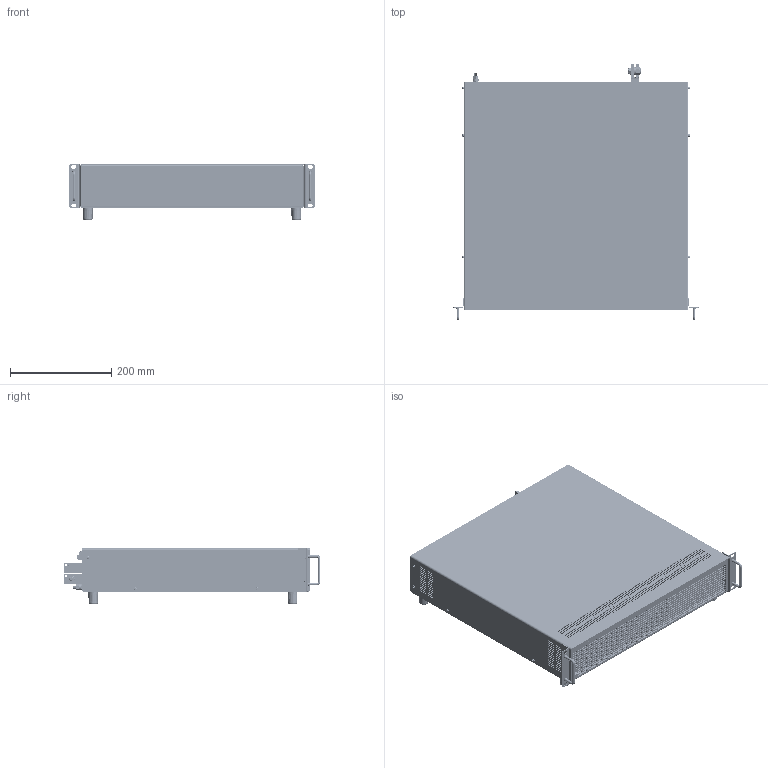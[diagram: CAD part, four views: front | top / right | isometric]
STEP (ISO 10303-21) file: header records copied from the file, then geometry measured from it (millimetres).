
FILE_DESCRIPTION(('STEP AP214'),'1');
FILE_NAME('PMLA HP_M30_19Z_2HE_FKS20_5_SM8_BRD_3D_01.step','2025-05-27T08:33:14',(' '),(' '),'Spatial InterOp 3D',' ',' ');
FILE_SCHEMA(('AUTOMOTIVE_DESIGN { 1 0 10303 214 1 1 1 1 }'));
Length unit declared in the file: millimetre
Products named in the file (23): *U470; *U471; *U472; 2614_PMLA HP Frontpanel_01 mit Einbauten; 2610_PMLA HP Rückwand_02 mit Einbauten; *U1084; *U1085; *U1086; *U1087; *U1088; *U1089; *U1090; 35951; *U1091; AutoCreatedBlock_1149; 2613_PMLA HP Bodenplatte_02; KVT BSO-M3-8; KVT BSO-M3-12; PEM_M5; AutoCreatedBlock_1169; 2133_st-05_055_22_3D; AutoCreatedBlock_1137
Assembly tree (46 placements, depth 3):
  (unnamed)
    *U470
    *U471  x4
    *U472  x2
    2614_PMLA HP Frontpanel_01 mit Einbauten
    2610_PMLA HP Rückwand_02 mit Einbauten
      *U1084  x2
      *U1085  x2
      *U1086  x2
      *U1087  x2
      *U1088
      *U1089  x2
      *U1090  x3
      35951
      *U1091  x2
      AutoCreatedBlock_1149
    2613_PMLA HP Bodenplatte_02
      KVT BSO-M3-8  x2
      KVT BSO-M3-12  x8
      PEM_M5  x4
      AutoCreatedBlock_1169
    2133_st-05_055_22_3D  x2
    AutoCreatedBlock_1137
Bounding box: 483.55 x 506.5 x 109.75 mm (x, y, z)
Volume: 15651316.2 mm3; surface area: 1730337.4 mm2
Topology: 152 solids, 154 shells, 11531 faces, 30039 edges, 19086 vertices
Faces by surface type: plane 6330, cone 3226, cylinder 1751, torus 108, bspline 70, sphere 32, extrusion 14
Entity records: 427629 total; most frequent: CARTESIAN_POINT 63691, DIRECTION 56727, ORIENTED_EDGE 56160, EDGE_CURVE 28080, VECTOR 21475, LINE 21461, VERTEX_POINT 17679, AXIS2_PLACEMENT_3D 17626
